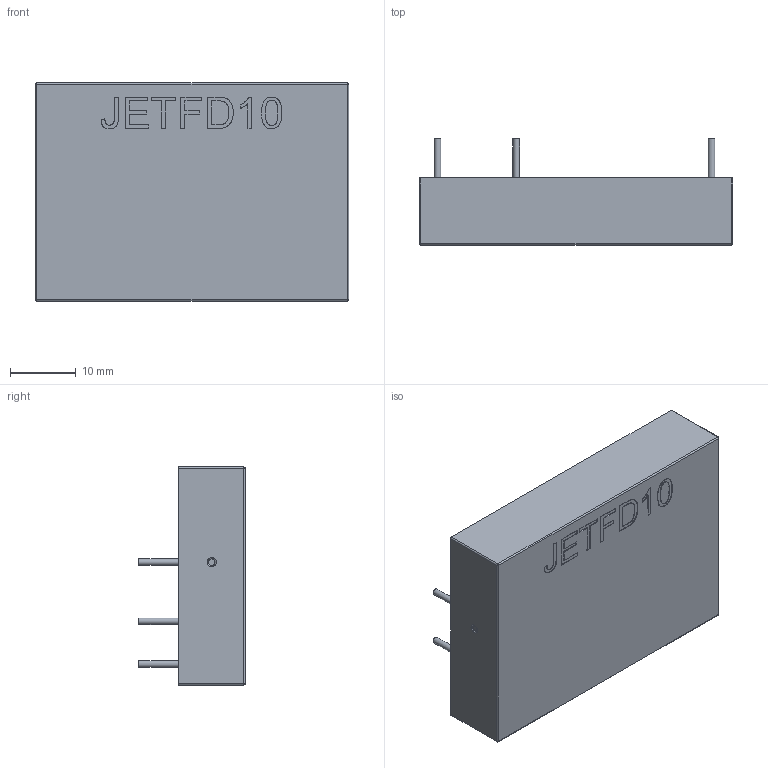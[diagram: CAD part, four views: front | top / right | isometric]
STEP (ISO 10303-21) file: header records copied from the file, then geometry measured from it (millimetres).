
FILE_DESCRIPTION(('STEP AP214'), '1');
FILE_NAME('JETFD10', '', ('UNSPECIFIED'), ('UNSPECIFIED'), 'ASCON STEP Converter 1.3', 'ASCON Math Kernel', '');
FILE_SCHEMA(('AUTOMOTIVE_DESIGN { 1 0 10303 214 3 1 1}'));
Length unit declared in the file: millimetre
Products named in the file (1): JETFD
Bounding box: 47.7 x 16.2 x 33.2 mm (x, y, z)
Volume: 15452.4 mm3; surface area: 4993.8 mm2
Topology: 1 solids, 1 shells, 237 faces, 648 edges, 425 vertices
Faces by surface type: cylinder 160, plane 72, sphere 4, torus 1
Full cylindrical faces by diameter (mm): 1 x6
Entity records: 9520 total; most frequent: DIRECTION 1434, CARTESIAN_POINT 1300, ORIENTED_EDGE 1274, EDGE_CURVE 637, AXIS2_PLACEMENT_3D 559, VERTEX_POINT 425, CIRCLE 321, LINE 316
